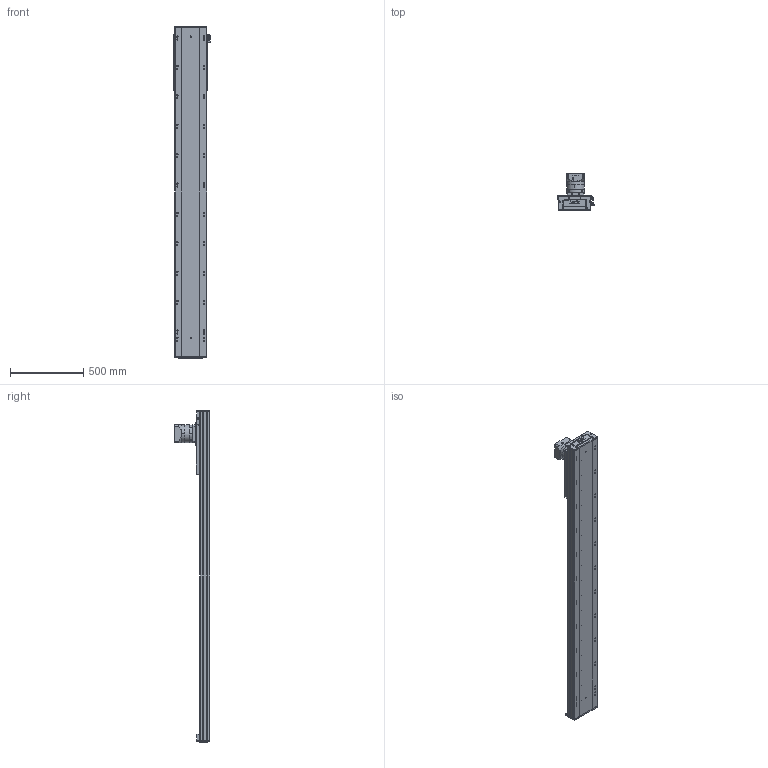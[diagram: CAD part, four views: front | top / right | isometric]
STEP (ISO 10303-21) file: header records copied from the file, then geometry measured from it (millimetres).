
FILE_DESCRIPTION (( 'STEP AP203' ), '1' );
FILE_NAME ('RY220-C-300-UK.SLDASM_1750.step', '2022-08-01T05:59:35', ( '' ), ( '' ), 'SwSTEP 2.0', 'SolidWorks 2016', '' );
FILE_SCHEMA (( 'CONFIG_CONTROL_DESIGN' ));
Length unit declared in the file: millimetre
Products named in the file (10): 覜茼ん674; RY220菁釱MK-300_1750; RY220喘沭俋离覜茼え; RY220-C-300-UK.SLDASM_1750; RY140直线电机感应器674光电安装座; RY220喘沭賑輸; RY220-齿条模组电机安装板; PF115L1-S2-22-58-110-145-M8; RY220喘沭綴裔啣; 滅袉蝶輸ㄗG412隅秶ㄘ
Assembly tree (12 placements, depth 2):
  RY220-C-300-UK.SLDASM_1750
    RY220菁釱MK-300_1750
    RY220喘沭賑輸
    RY220-齿条模组电机安装板
    PF115L1-S2-22-58-110-145-M8
    RY220喘沭綴裔啣  x2
    滅袉蝶輸ㄗG412隅秶ㄘ  x2
    RY140直线电机感应器674光电安装座
    覜茼ん674  x2
    RY220喘沭俋离覜茼え
Bounding box: 247 x 244.5 x 2259 mm (x, y, z)
Volume: 16428317 mm3; surface area: 3313410.4 mm2
Topology: 18 solids, 26 shells, 2146 faces, 5771 edges, 3642 vertices
Faces by surface type: cylinder 1013, plane 751, cone 220, bspline 162
Entity records: 68157 total; most frequent: CARTESIAN_POINT 18676, DIRECTION 10159, ORIENTED_EDGE 10002, EDGE_CURVE 5001, AXIS2_PLACEMENT_3D 3873, VERTEX_POINT 3268, EDGE_LOOP 2473, LINE 2413
